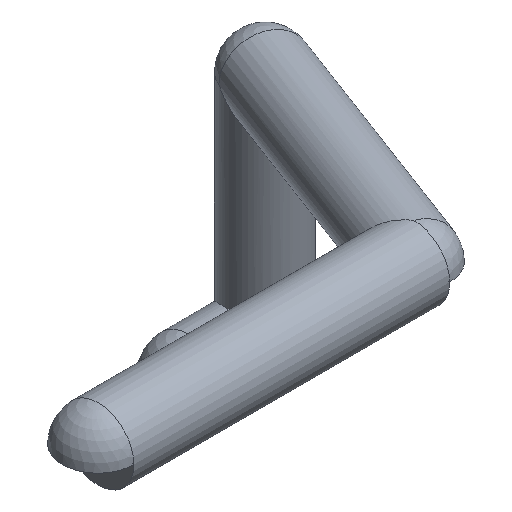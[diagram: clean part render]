
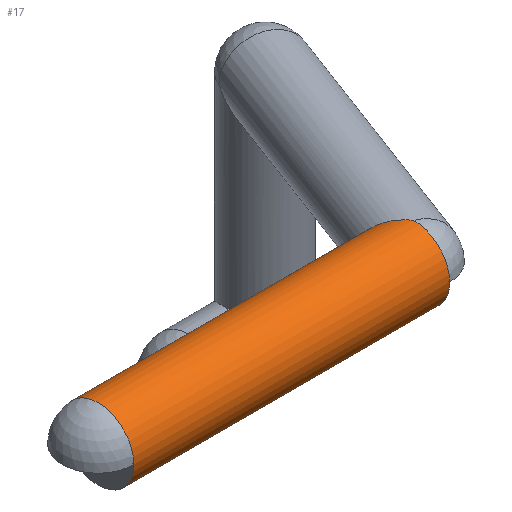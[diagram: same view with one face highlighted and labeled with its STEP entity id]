
A CAD part, isometric view. The second image highlights one B-rep face of the part: STEP entity #17.
In plain terms, the highlighted cylindrical face has radius 0.6 mm (diameter 1.2 mm), a full revolution.
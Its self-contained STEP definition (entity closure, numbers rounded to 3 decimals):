
#17 = ADVANCED_FACE('',(#18),#33,.T.);
#18 = FACE_BOUND('',#19,.T.);
#19 = EDGE_LOOP('',(#20,#56,#85,#108,#149,#178,#204,#205));
#20 = ORIENTED_EDGE('',*,*,#21,.T.);
#21 = EDGE_CURVE('',#22,#24,#26,.T.);
#22 = VERTEX_POINT('',#23);
#23 = CARTESIAN_POINT('',(9.5,70.4,20.3));
#24 = VERTEX_POINT('',#25);
#25 = CARTESIAN_POINT('',(9.5,71.6,20.3));
#26 = SURFACE_CURVE('',#27,(#32,#44),.PCURVE_S1.);
#27 = CIRCLE('',#28,0.6);
#28 = AXIS2_PLACEMENT_3D('',#29,#30,#31);
#29 = CARTESIAN_POINT('',(9.5,71.,20.3));
#30 = DIRECTION('',(1.,0.,0.));
#31 = DIRECTION('',(-0.,0.,1.));
#32 = PCURVE('',#33,#38);
#33 = CYLINDRICAL_SURFACE('',#34,0.6);
#34 = AXIS2_PLACEMENT_3D('',#35,#36,#37);
#35 = CARTESIAN_POINT('',(9.5,71.,20.3));
#36 = DIRECTION('',(1.,0.,0.));
#37 = DIRECTION('',(-0.,0.,1.));
#38 = DEFINITIONAL_REPRESENTATION('',(#39),#43);
#39 = LINE('',#40,#41);
#40 = CARTESIAN_POINT('',(0.,0.));
#41 = VECTOR('',#42,1.);
#42 = DIRECTION('',(1.,0.));
#43 = ( GEOMETRIC_REPRESENTATION_CONTEXT(2) 
PARAMETRIC_REPRESENTATION_CONTEXT() REPRESENTATION_CONTEXT('2D SPACE',''
  ) );
#44 = PCURVE('',#45,#50);
#45 = PLANE('',#46);
#46 = AXIS2_PLACEMENT_3D('',#47,#48,#49);
#47 = CARTESIAN_POINT('',(9.5,71.,20.3));
#48 = DIRECTION('',(1.,0.,0.));
#49 = DIRECTION('',(-0.,0.,1.));
#50 = DEFINITIONAL_REPRESENTATION('',(#51),#55);
#51 = CIRCLE('',#52,0.6);
#52 = AXIS2_PLACEMENT_2D('',#53,#54);
#53 = CARTESIAN_POINT('',(0.,0.));
#54 = DIRECTION('',(1.,0.));
#55 = ( GEOMETRIC_REPRESENTATION_CONTEXT(2) 
PARAMETRIC_REPRESENTATION_CONTEXT() REPRESENTATION_CONTEXT('2D SPACE',''
  ) );
#56 = ORIENTED_EDGE('',*,*,#57,.T.);
#57 = EDGE_CURVE('',#24,#58,#60,.T.);
#58 = VERTEX_POINT('',#59);
#59 = CARTESIAN_POINT('',(9.5,71.,20.9));
#60 = SURFACE_CURVE('',#61,(#66,#73),.PCURVE_S1.);
#61 = CIRCLE('',#62,0.6);
#62 = AXIS2_PLACEMENT_3D('',#63,#64,#65);
#63 = CARTESIAN_POINT('',(9.5,71.,20.3));
#64 = DIRECTION('',(1.,0.,0.));
#65 = DIRECTION('',(-0.,0.,1.));
#66 = PCURVE('',#33,#67);
#67 = DEFINITIONAL_REPRESENTATION('',(#68),#72);
#68 = LINE('',#69,#70);
#69 = CARTESIAN_POINT('',(0.,0.));
#70 = VECTOR('',#71,1.);
#71 = DIRECTION('',(1.,0.));
#72 = ( GEOMETRIC_REPRESENTATION_CONTEXT(2) 
PARAMETRIC_REPRESENTATION_CONTEXT() REPRESENTATION_CONTEXT('2D SPACE',''
  ) );
#73 = PCURVE('',#74,#79);
#74 = SPHERICAL_SURFACE('',#75,0.6);
#75 = AXIS2_PLACEMENT_3D('',#76,#77,#78);
#76 = CARTESIAN_POINT('',(9.5,71.,20.3));
#77 = DIRECTION('',(0.,0.,1.));
#78 = DIRECTION('',(1.,0.,-0.));
#79 = DEFINITIONAL_REPRESENTATION('',(#80),#84);
#80 = LINE('',#81,#82);
#81 = CARTESIAN_POINT('',(1.571,-4.712));
#82 = VECTOR('',#83,1.);
#83 = DIRECTION('',(-0.,1.));
#84 = ( GEOMETRIC_REPRESENTATION_CONTEXT(2) 
PARAMETRIC_REPRESENTATION_CONTEXT() REPRESENTATION_CONTEXT('2D SPACE',''
  ) );
#85 = ORIENTED_EDGE('',*,*,#86,.T.);
#86 = EDGE_CURVE('',#58,#87,#89,.T.);
#87 = VERTEX_POINT('',#88);
#88 = CARTESIAN_POINT('',(14.8,71.,20.9));
#89 = SEAM_CURVE('',#90,(#94,#101),.PCURVE_S1.);
#90 = LINE('',#91,#92);
#91 = CARTESIAN_POINT('',(9.5,71.,20.9));
#92 = VECTOR('',#93,1.);
#93 = DIRECTION('',(1.,0.,0.));
#94 = PCURVE('',#33,#95);
#95 = DEFINITIONAL_REPRESENTATION('',(#96),#100);
#96 = LINE('',#97,#98);
#97 = CARTESIAN_POINT('',(0.,-0.));
#98 = VECTOR('',#99,1.);
#99 = DIRECTION('',(0.,1.));
#100 = ( GEOMETRIC_REPRESENTATION_CONTEXT(2) 
PARAMETRIC_REPRESENTATION_CONTEXT() REPRESENTATION_CONTEXT('2D SPACE',''
  ) );
#101 = PCURVE('',#33,#102);
#102 = DEFINITIONAL_REPRESENTATION('',(#103),#107);
#103 = LINE('',#104,#105);
#104 = CARTESIAN_POINT('',(6.283,-0.));
#105 = VECTOR('',#106,1.);
#106 = DIRECTION('',(0.,1.));
#107 = ( GEOMETRIC_REPRESENTATION_CONTEXT(2) 
PARAMETRIC_REPRESENTATION_CONTEXT() REPRESENTATION_CONTEXT('2D SPACE',''
  ) );
#108 = ORIENTED_EDGE('',*,*,#109,.F.);
#109 = EDGE_CURVE('',#110,#87,#112,.T.);
#110 = VERTEX_POINT('',#111);
#111 = CARTESIAN_POINT('',(14.8,71.,19.7));
#112 = SURFACE_CURVE('',#113,(#118,#131),.PCURVE_S1.);
#113 = ELLIPSE('',#114,0.73,0.6);
#114 = AXIS2_PLACEMENT_3D('',#115,#116,#117);
#115 = CARTESIAN_POINT('',(14.8,71.,20.3));
#116 = DIRECTION('',(0.822,0.57,0.));
#117 = DIRECTION('',(0.57,-0.822,0.));
#118 = PCURVE('',#33,#119);
#119 = DEFINITIONAL_REPRESENTATION('',(#120),#130);
#120 = B_SPLINE_CURVE_WITH_KNOTS('',8,(#121,#122,#123,#124,#125,#126,
    #127,#128,#129),.UNSPECIFIED.,.F.,.F.,(9,9),(1.571,
    4.712),.PIECEWISE_BEZIER_KNOTS.);
#121 = CARTESIAN_POINT('',(3.142,5.3));
#122 = CARTESIAN_POINT('',(3.534,5.137));
#123 = CARTESIAN_POINT('',(3.927,4.973));
#124 = CARTESIAN_POINT('',(4.32,4.849));
#125 = CARTESIAN_POINT('',(4.712,4.8));
#126 = CARTESIAN_POINT('',(5.105,4.849));
#127 = CARTESIAN_POINT('',(5.498,4.973));
#128 = CARTESIAN_POINT('',(5.89,5.137));
#129 = CARTESIAN_POINT('',(6.283,5.3));
#130 = ( GEOMETRIC_REPRESENTATION_CONTEXT(2) 
PARAMETRIC_REPRESENTATION_CONTEXT() REPRESENTATION_CONTEXT('2D SPACE',''
  ) );
#131 = PCURVE('',#132,#137);
#132 = CYLINDRICAL_SURFACE('',#133,0.6);
#133 = AXIS2_PLACEMENT_3D('',#134,#135,#136);
#134 = CARTESIAN_POINT('',(14.8,71.,20.3));
#135 = DIRECTION('',(0.351,0.936,0.));
#136 = DIRECTION('',(0.936,-0.351,0.));
#137 = DEFINITIONAL_REPRESENTATION('',(#138),#148);
#138 = B_SPLINE_CURVE_WITH_KNOTS('',8,(#139,#140,#141,#142,#143,#144,
    #145,#146,#147),.UNSPECIFIED.,.F.,.F.,(9,9),(1.571,
    4.712),.PIECEWISE_BEZIER_KNOTS.);
#139 = CARTESIAN_POINT('',(1.571,0.));
#140 = CARTESIAN_POINT('',(1.963,0.163));
#141 = CARTESIAN_POINT('',(2.356,0.327));
#142 = CARTESIAN_POINT('',(2.749,0.451));
#143 = CARTESIAN_POINT('',(3.142,0.5));
#144 = CARTESIAN_POINT('',(3.534,0.451));
#145 = CARTESIAN_POINT('',(3.927,0.327));
#146 = CARTESIAN_POINT('',(4.32,0.163));
#147 = CARTESIAN_POINT('',(4.712,0.));
#148 = ( GEOMETRIC_REPRESENTATION_CONTEXT(2) 
PARAMETRIC_REPRESENTATION_CONTEXT() REPRESENTATION_CONTEXT('2D SPACE',''
  ) );
#149 = ORIENTED_EDGE('',*,*,#150,.F.);
#150 = EDGE_CURVE('',#151,#110,#153,.T.);
#151 = VERTEX_POINT('',#152);
#152 = CARTESIAN_POINT('',(14.8,70.4,20.3));
#153 = SURFACE_CURVE('',#154,(#159,#166),.PCURVE_S1.);
#154 = CIRCLE('',#155,0.6);
#155 = AXIS2_PLACEMENT_3D('',#156,#157,#158);
#156 = CARTESIAN_POINT('',(14.8,71.,20.3));
#157 = DIRECTION('',(1.,0.,0.));
#158 = DIRECTION('',(-0.,0.,1.));
#159 = PCURVE('',#33,#160);
#160 = DEFINITIONAL_REPRESENTATION('',(#161),#165);
#161 = LINE('',#162,#163);
#162 = CARTESIAN_POINT('',(0.,5.3));
#163 = VECTOR('',#164,1.);
#164 = DIRECTION('',(1.,0.));
#165 = ( GEOMETRIC_REPRESENTATION_CONTEXT(2) 
PARAMETRIC_REPRESENTATION_CONTEXT() REPRESENTATION_CONTEXT('2D SPACE',''
  ) );
#166 = PCURVE('',#167,#172);
#167 = PLANE('',#168);
#168 = AXIS2_PLACEMENT_3D('',#169,#170,#171);
#169 = CARTESIAN_POINT('',(14.8,71.,20.3));
#170 = DIRECTION('',(1.,0.,0.));
#171 = DIRECTION('',(-0.,0.,1.));
#172 = DEFINITIONAL_REPRESENTATION('',(#173),#177);
#173 = CIRCLE('',#174,0.6);
#174 = AXIS2_PLACEMENT_2D('',#175,#176);
#175 = CARTESIAN_POINT('',(0.,0.));
#176 = DIRECTION('',(1.,0.));
#177 = ( GEOMETRIC_REPRESENTATION_CONTEXT(2) 
PARAMETRIC_REPRESENTATION_CONTEXT() REPRESENTATION_CONTEXT('2D SPACE',''
  ) );
#178 = ORIENTED_EDGE('',*,*,#179,.F.);
#179 = EDGE_CURVE('',#87,#151,#180,.T.);
#180 = SURFACE_CURVE('',#181,(#186,#193),.PCURVE_S1.);
#181 = CIRCLE('',#182,0.6);
#182 = AXIS2_PLACEMENT_3D('',#183,#184,#185);
#183 = CARTESIAN_POINT('',(14.8,71.,20.3));
#184 = DIRECTION('',(1.,0.,0.));
#185 = DIRECTION('',(-0.,0.,1.));
#186 = PCURVE('',#33,#187);
#187 = DEFINITIONAL_REPRESENTATION('',(#188),#192);
#188 = LINE('',#189,#190);
#189 = CARTESIAN_POINT('',(0.,5.3));
#190 = VECTOR('',#191,1.);
#191 = DIRECTION('',(1.,0.));
#192 = ( GEOMETRIC_REPRESENTATION_CONTEXT(2) 
PARAMETRIC_REPRESENTATION_CONTEXT() REPRESENTATION_CONTEXT('2D SPACE',''
  ) );
#193 = PCURVE('',#194,#199);
#194 = SPHERICAL_SURFACE('',#195,0.6);
#195 = AXIS2_PLACEMENT_3D('',#196,#197,#198);
#196 = CARTESIAN_POINT('',(14.8,71.,20.3));
#197 = DIRECTION('',(0.,0.,1.));
#198 = DIRECTION('',(1.,0.,-0.));
#199 = DEFINITIONAL_REPRESENTATION('',(#200),#203);
#200 = B_SPLINE_CURVE_WITH_KNOTS('',1,(#201,#202),.UNSPECIFIED.,.F.,.F.,
  (2,2),(0.,1.571),.PIECEWISE_BEZIER_KNOTS.);
#201 = CARTESIAN_POINT('',(4.712,1.571));
#202 = CARTESIAN_POINT('',(4.712,0.));
#203 = ( GEOMETRIC_REPRESENTATION_CONTEXT(2) 
PARAMETRIC_REPRESENTATION_CONTEXT() REPRESENTATION_CONTEXT('2D SPACE',''
  ) );
#204 = ORIENTED_EDGE('',*,*,#86,.F.);
#205 = ORIENTED_EDGE('',*,*,#206,.T.);
#206 = EDGE_CURVE('',#58,#22,#207,.T.);
#207 = SURFACE_CURVE('',#208,(#213,#220),.PCURVE_S1.);
#208 = CIRCLE('',#209,0.6);
#209 = AXIS2_PLACEMENT_3D('',#210,#211,#212);
#210 = CARTESIAN_POINT('',(9.5,71.,20.3));
#211 = DIRECTION('',(1.,0.,0.));
#212 = DIRECTION('',(-0.,0.,1.));
#213 = PCURVE('',#33,#214);
#214 = DEFINITIONAL_REPRESENTATION('',(#215),#219);
#215 = LINE('',#216,#217);
#216 = CARTESIAN_POINT('',(0.,0.));
#217 = VECTOR('',#218,1.);
#218 = DIRECTION('',(1.,0.));
#219 = ( GEOMETRIC_REPRESENTATION_CONTEXT(2) 
PARAMETRIC_REPRESENTATION_CONTEXT() REPRESENTATION_CONTEXT('2D SPACE',''
  ) );
#220 = PCURVE('',#74,#221);
#221 = DEFINITIONAL_REPRESENTATION('',(#222),#226);
#222 = LINE('',#223,#224);
#223 = CARTESIAN_POINT('',(4.712,1.571));
#224 = VECTOR('',#225,1.);
#225 = DIRECTION('',(0.,-1.));
#226 = ( GEOMETRIC_REPRESENTATION_CONTEXT(2) 
PARAMETRIC_REPRESENTATION_CONTEXT() REPRESENTATION_CONTEXT('2D SPACE',''
  ) );
